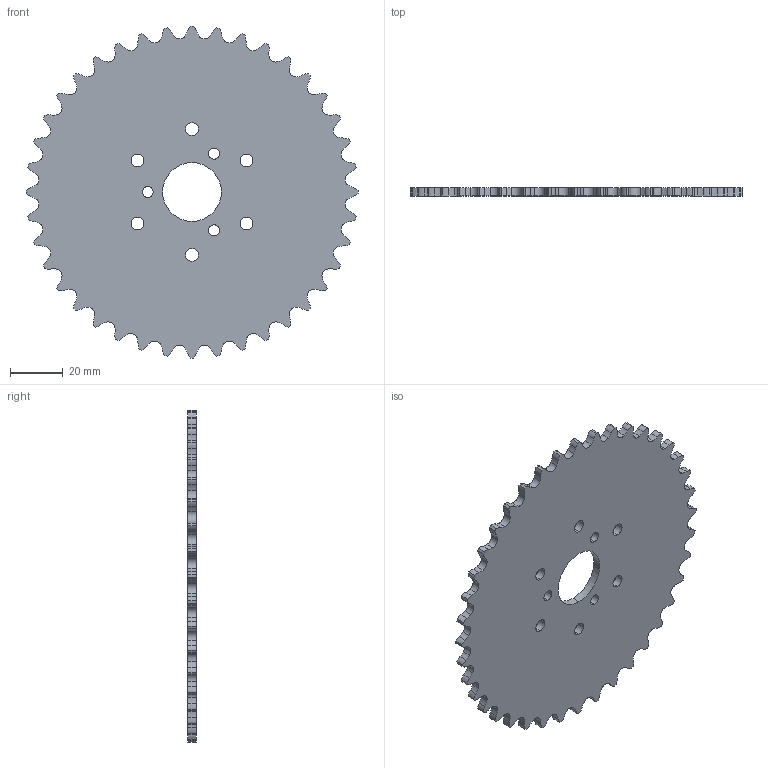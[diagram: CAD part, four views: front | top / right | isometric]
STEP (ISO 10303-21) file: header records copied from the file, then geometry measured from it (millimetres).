
FILE_DESCRIPTION (( 'STEP AP203' ), '1' );
FILE_NAME ('IFI-SPROCKET-35A40 RevB.STEP', '2006-11-03T17:43:15', ( 'Innovation First, Inc.' ), ( 'Innovation First, Inc.' ), 'SwSTEP 2.0', 'SolidWorks 2006052', '' );
FILE_SCHEMA (( 'CONFIG_CONTROL_DESIGN' ));
Length unit declared in the file: inch
Products named in the file (1): IFI-SPROCKET-35A40 RevB
Bounding box: 125.6 x 3.17 x 125.6 mm (x, y, z)
Volume: 34315 mm3; surface area: 24067.9 mm2
Topology: 1 solids, 1 shells, 286 faces, 852 edges, 568 vertices
Faces by surface type: cylinder 244, plane 42
Entity records: 10003 total; most frequent: DIRECTION 1914, CARTESIAN_POINT 1707, ORIENTED_EDGE 1704, EDGE_CURVE 852, AXIS2_PLACEMENT_3D 775, VERTEX_POINT 568, CIRCLE 488, VECTOR 364
